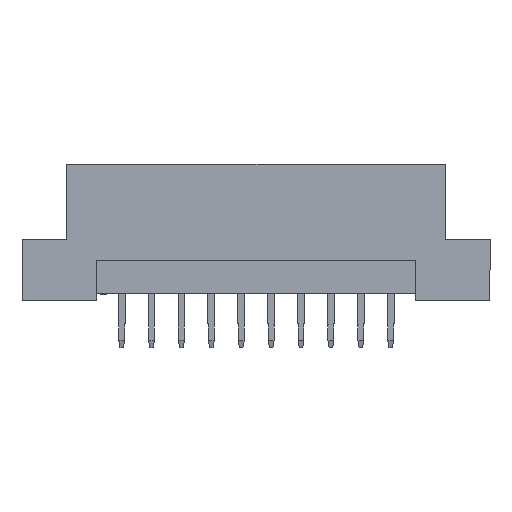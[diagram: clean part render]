
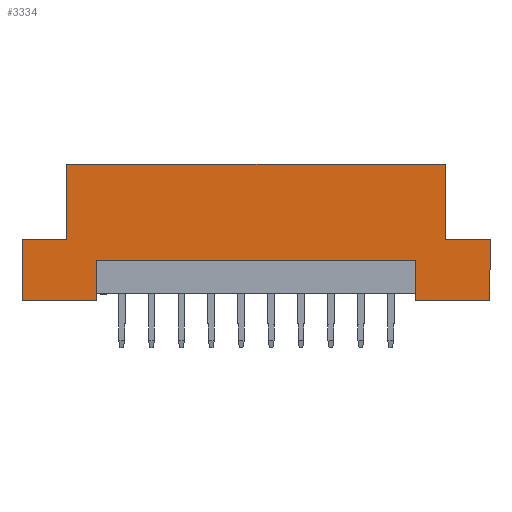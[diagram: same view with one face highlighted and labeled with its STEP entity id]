
A CAD part, front view. The second image highlights one B-rep face of the part: STEP entity #3334.
In plain terms, the highlighted planar face has unit normal (0, -1, 0).
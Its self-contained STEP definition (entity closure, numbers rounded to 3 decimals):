
#345 = VERTEX_POINT ( 'NONE', #5511 ) ;
#361 = EDGE_LOOP ( 'NONE', ( #1567, #1565, #1568, #1562, #1677, #1668, #1672, #1673, #1694, #1692, #1679, #1698 ) ) ;
#1016 = VERTEX_POINT ( 'NONE', #6320 ) ;
#1562 = ORIENTED_EDGE ( 'NONE', *, *, #3267, .T. ) ;
#1565 = ORIENTED_EDGE ( 'NONE', *, *, #3369, .T. ) ;
#1567 = ORIENTED_EDGE ( 'NONE', *, *, #3392, .T. ) ;
#1568 = ORIENTED_EDGE ( 'NONE', *, *, #3275, .T. ) ;
#1668 = ORIENTED_EDGE ( 'NONE', *, *, #3382, .T. ) ;
#1672 = ORIENTED_EDGE ( 'NONE', *, *, #3380, .T. ) ;
#1673 = ORIENTED_EDGE ( 'NONE', *, *, #3381, .T. ) ;
#1677 = ORIENTED_EDGE ( 'NONE', *, *, #3220, .T. ) ;
#1679 = ORIENTED_EDGE ( 'NONE', *, *, #3283, .T. ) ;
#1692 = ORIENTED_EDGE ( 'NONE', *, *, #3266, .T. ) ;
#1694 = ORIENTED_EDGE ( 'NONE', *, *, #3234, .T. ) ;
#1698 = ORIENTED_EDGE ( 'NONE', *, *, #3246, .T. ) ;
#1708 = VERTEX_POINT ( 'NONE', #6299 ) ;
#1709 = VERTEX_POINT ( 'NONE', #6419 ) ;
#1712 = VERTEX_POINT ( 'NONE', #6415 ) ;
#1713 = VERTEX_POINT ( 'NONE', #6418 ) ;
#1714 = VERTEX_POINT ( 'NONE', #6290 ) ;
#1717 = VERTEX_POINT ( 'NONE', #6420 ) ;
#1718 = VERTEX_POINT ( 'NONE', #6275 ) ;
#2562 = CARTESIAN_POINT ( 'NONE',  ( -27.5, -4.3, 11.6 ) ) ;
#2571 = LINE ( 'NONE', #2598, #5017 ) ;
#2598 = CARTESIAN_POINT ( 'NONE',  ( 8.46, -4.3, 11.6 ) ) ;
#2599 = DIRECTION ( 'NONE',  ( 0., 0., 1. ) ) ;
#2602 = LINE ( 'NONE', #2562, #5119 ) ;
#2607 = DIRECTION ( 'NONE',  ( 0., 0., -1. ) ) ;
#2638 = DIRECTION ( 'NONE',  ( 1., 0., 0. ) ) ;
#2639 = CARTESIAN_POINT ( 'NONE',  ( -27.5, -4.3, 0. ) ) ;
#2640 = LINE ( 'NONE', #2639, #4906 ) ;
#2641 = DIRECTION ( 'NONE',  ( -1., 0., 0. ) ) ;
#2643 = CARTESIAN_POINT ( 'NONE',  ( -27.5, -4.3, 5.2 ) ) ;
#2659 = LINE ( 'NONE', #2643, #5121 ) ;
#2738 = DIRECTION ( 'NONE',  ( -1., 0., 0. ) ) ;
#2739 = CARTESIAN_POINT ( 'NONE',  ( -27.5, -4.3, 11.6 ) ) ;
#2741 = LINE ( 'NONE', #2739, #5035 ) ;
#2791 = DIRECTION ( 'NONE',  ( 0., 0., 1. ) ) ;
#2792 = CARTESIAN_POINT ( 'NONE',  ( 12.26, -4.3, 11.6 ) ) ;
#2796 = LINE ( 'NONE', #2792, #5111 ) ;
#2859 = DIRECTION ( 'NONE',  ( 0., 0., 1. ) ) ;
#2861 = CARTESIAN_POINT ( 'NONE',  ( -21.2, -4.3, 11.6 ) ) ;
#2863 = LINE ( 'NONE', #2861, #4946 ) ;
#3220 = EDGE_CURVE ( 'NONE', #1016, #1717, #2863, .T. ) ;
#3234 = EDGE_CURVE ( 'NONE', #1714, #5584, #2796, .T. ) ;
#3246 = EDGE_CURVE ( 'NONE', #1718, #345, #2741, .T. ) ;
#3266 = EDGE_CURVE ( 'NONE', #5584, #1713, #2659, .T. ) ;
#3267 = EDGE_CURVE ( 'NONE', #1709, #1016, #2640, .T. ) ;
#3275 = EDGE_CURVE ( 'NONE', #1708, #1709, #2602, .T. ) ;
#3283 = EDGE_CURVE ( 'NONE', #1713, #1718, #2571, .T. ) ;
#3334 = ADVANCED_FACE ( 'NONE', ( #4656 ), #4613, .T. ) ;
#3369 = EDGE_CURVE ( 'NONE', #3451, #1708, #7500, .T. ) ;
#3380 = EDGE_CURVE ( 'NONE', #1712, #5581, #7560, .T. ) ;
#3381 = EDGE_CURVE ( 'NONE', #5581, #1714, #7563, .T. ) ;
#3382 = EDGE_CURVE ( 'NONE', #1717, #1712, #7566, .T. ) ;
#3392 = EDGE_CURVE ( 'NONE', #345, #3451, #7590, .T. ) ;
#3451 = VERTEX_POINT ( 'NONE', #8141 ) ;
#4613 = PLANE ( 'NONE',  #4963 ) ;
#4656 = FACE_OUTER_BOUND ( 'NONE', #361, .T. ) ;
#4666 = CARTESIAN_POINT ( 'NONE',  ( -27.5, -4.3, 11.6 ) ) ;
#4667 = DIRECTION ( 'NONE',  ( 0., -1., 0. ) ) ;
#4668 = DIRECTION ( 'NONE',  ( 0., 0., -1. ) ) ;
#4906 = VECTOR ( 'NONE', #2638, 1000. ) ;
#4946 = VECTOR ( 'NONE', #2859, 1000. ) ;
#4963 = AXIS2_PLACEMENT_3D ( 'NONE', #4666, #4667, #4668 ) ;
#5017 = VECTOR ( 'NONE', #2599, 1000. ) ;
#5035 = VECTOR ( 'NONE', #2738, 1000. ) ;
#5111 = VECTOR ( 'NONE', #2791, 1000. ) ;
#5119 = VECTOR ( 'NONE', #2607, 1000. ) ;
#5121 = VECTOR ( 'NONE', #2641, 1000. ) ;
#5511 = CARTESIAN_POINT ( 'NONE',  ( -23.7, -4.3, 11.6 ) ) ;
#5581 = VERTEX_POINT ( 'NONE', #6529 ) ;
#5584 = VERTEX_POINT ( 'NONE', #6532 ) ;
#6275 = CARTESIAN_POINT ( 'NONE',  ( 8.46, -4.3, 11.6 ) ) ;
#6290 = CARTESIAN_POINT ( 'NONE',  ( 12.26, -4.3, 0. ) ) ;
#6299 = CARTESIAN_POINT ( 'NONE',  ( -27.5, -4.3, 5.2 ) ) ;
#6320 = CARTESIAN_POINT ( 'NONE',  ( -21.2, -4.3, 0. ) ) ;
#6415 = CARTESIAN_POINT ( 'NONE',  ( 5.96, -4.3, 3.4 ) ) ;
#6418 = CARTESIAN_POINT ( 'NONE',  ( 8.46, -4.3, 5.2 ) ) ;
#6419 = CARTESIAN_POINT ( 'NONE',  ( -27.5, -4.3, 0. ) ) ;
#6420 = CARTESIAN_POINT ( 'NONE',  ( -21.2, -4.3, 3.4 ) ) ;
#6529 = CARTESIAN_POINT ( 'NONE',  ( 5.96, -4.3, 0. ) ) ;
#6532 = CARTESIAN_POINT ( 'NONE',  ( 12.26, -4.3, 5.2 ) ) ;
#7500 = LINE ( 'NONE', #7506, #8821 ) ;
#7506 = CARTESIAN_POINT ( 'NONE',  ( -27.5, -4.3, 5.2 ) ) ;
#7508 = DIRECTION ( 'NONE',  ( -1., 0., 0. ) ) ;
#7560 = LINE ( 'NONE', #7561, #8954 ) ;
#7561 = CARTESIAN_POINT ( 'NONE',  ( 5.96, -4.3, 11.6 ) ) ;
#7562 = DIRECTION ( 'NONE',  ( 0., 0., -1. ) ) ;
#7563 = LINE ( 'NONE', #7564, #8955 ) ;
#7564 = CARTESIAN_POINT ( 'NONE',  ( -27.5, -4.3, 0. ) ) ;
#7565 = DIRECTION ( 'NONE',  ( 1., 0., 0. ) ) ;
#7566 = LINE ( 'NONE', #7567, #8956 ) ;
#7567 = CARTESIAN_POINT ( 'NONE',  ( -27.5, -4.3, 3.4 ) ) ;
#7568 = DIRECTION ( 'NONE',  ( 1., 0., 0. ) ) ;
#7581 = CARTESIAN_POINT ( 'NONE',  ( -23.7, -4.3, 11.6 ) ) ;
#7590 = LINE ( 'NONE', #7581, #8967 ) ;
#7599 = DIRECTION ( 'NONE',  ( 0., 0., -1. ) ) ;
#8141 = CARTESIAN_POINT ( 'NONE',  ( -23.7, -4.3, 5.2 ) ) ;
#8821 = VECTOR ( 'NONE', #7508, 1000. ) ;
#8954 = VECTOR ( 'NONE', #7562, 1000. ) ;
#8955 = VECTOR ( 'NONE', #7565, 1000. ) ;
#8956 = VECTOR ( 'NONE', #7568, 1000. ) ;
#8967 = VECTOR ( 'NONE', #7599, 1000. ) ;
